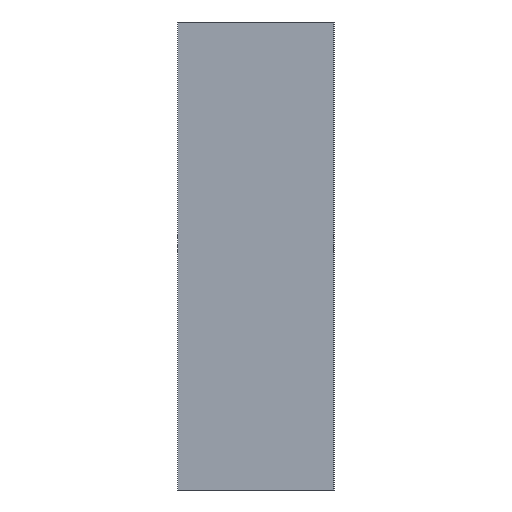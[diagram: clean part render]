
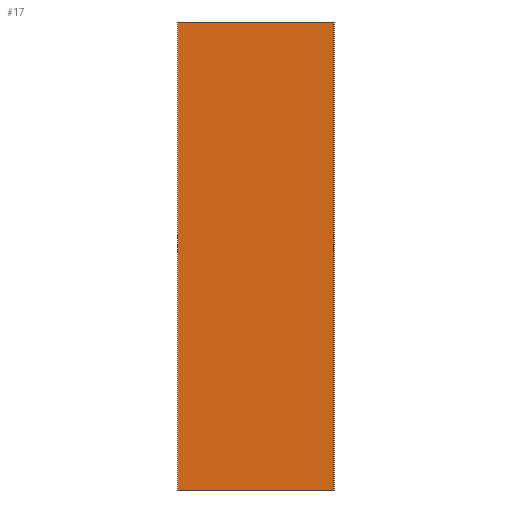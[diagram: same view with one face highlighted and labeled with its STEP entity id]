
A CAD part, left-side view. The second image highlights one B-rep face of the part: STEP entity #17.
In plain terms, the highlighted planar face has unit normal (-1, 0, 0).
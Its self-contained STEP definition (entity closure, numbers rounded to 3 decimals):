
#17 = ADVANCED_FACE('',(#18),#32,.F.);
#18 = FACE_BOUND('',#19,.F.);
#19 = EDGE_LOOP('',(#20,#55,#83,#111));
#20 = ORIENTED_EDGE('',*,*,#21,.F.);
#21 = EDGE_CURVE('',#22,#24,#26,.T.);
#22 = VERTEX_POINT('',#23);
#23 = CARTESIAN_POINT('',(-180.,-140.213,14.));
#24 = VERTEX_POINT('',#25);
#25 = CARTESIAN_POINT('',(-180.,-140.213,23.));
#26 = SURFACE_CURVE('',#27,(#31,#43),.PCURVE_S1.);
#27 = LINE('',#28,#29);
#28 = CARTESIAN_POINT('',(-180.,-140.213,14.));
#29 = VECTOR('',#30,1.);
#30 = DIRECTION('',(0.,0.,1.));
#31 = PCURVE('',#32,#37);
#32 = PLANE('',#33);
#33 = AXIS2_PLACEMENT_3D('',#34,#35,#36);
#34 = CARTESIAN_POINT('',(-180.,-140.213,14.));
#35 = DIRECTION('',(1.,0.,-0.));
#36 = DIRECTION('',(0.,0.,1.));
#37 = DEFINITIONAL_REPRESENTATION('',(#38),#42);
#38 = LINE('',#39,#40);
#39 = CARTESIAN_POINT('',(0.,0.));
#40 = VECTOR('',#41,1.);
#41 = DIRECTION('',(1.,0.));
#42 = ( GEOMETRIC_REPRESENTATION_CONTEXT(2) 
PARAMETRIC_REPRESENTATION_CONTEXT() REPRESENTATION_CONTEXT('2D SPACE',''
  ) );
#43 = PCURVE('',#44,#49);
#44 = PLANE('',#45);
#45 = AXIS2_PLACEMENT_3D('',#46,#47,#48);
#46 = CARTESIAN_POINT('',(-180.,-140.213,14.));
#47 = DIRECTION('',(-0.,1.,0.));
#48 = DIRECTION('',(0.,0.,1.));
#49 = DEFINITIONAL_REPRESENTATION('',(#50),#54);
#50 = LINE('',#51,#52);
#51 = CARTESIAN_POINT('',(0.,0.));
#52 = VECTOR('',#53,1.);
#53 = DIRECTION('',(1.,0.));
#54 = ( GEOMETRIC_REPRESENTATION_CONTEXT(2) 
PARAMETRIC_REPRESENTATION_CONTEXT() REPRESENTATION_CONTEXT('2D SPACE',''
  ) );
#55 = ORIENTED_EDGE('',*,*,#56,.T.);
#56 = EDGE_CURVE('',#22,#57,#59,.T.);
#57 = VERTEX_POINT('',#58);
#58 = CARTESIAN_POINT('',(-180.,-137.213,14.));
#59 = SURFACE_CURVE('',#60,(#64,#71),.PCURVE_S1.);
#60 = LINE('',#61,#62);
#61 = CARTESIAN_POINT('',(-180.,-140.213,14.));
#62 = VECTOR('',#63,1.);
#63 = DIRECTION('',(-0.,1.,0.));
#64 = PCURVE('',#32,#65);
#65 = DEFINITIONAL_REPRESENTATION('',(#66),#70);
#66 = LINE('',#67,#68);
#67 = CARTESIAN_POINT('',(0.,0.));
#68 = VECTOR('',#69,1.);
#69 = DIRECTION('',(0.,-1.));
#70 = ( GEOMETRIC_REPRESENTATION_CONTEXT(2) 
PARAMETRIC_REPRESENTATION_CONTEXT() REPRESENTATION_CONTEXT('2D SPACE',''
  ) );
#71 = PCURVE('',#72,#77);
#72 = PLANE('',#73);
#73 = AXIS2_PLACEMENT_3D('',#74,#75,#76);
#74 = CARTESIAN_POINT('',(-180.,-140.213,14.));
#75 = DIRECTION('',(0.,0.,1.));
#76 = DIRECTION('',(1.,0.,-0.));
#77 = DEFINITIONAL_REPRESENTATION('',(#78),#82);
#78 = LINE('',#79,#80);
#79 = CARTESIAN_POINT('',(0.,0.));
#80 = VECTOR('',#81,1.);
#81 = DIRECTION('',(0.,1.));
#82 = ( GEOMETRIC_REPRESENTATION_CONTEXT(2) 
PARAMETRIC_REPRESENTATION_CONTEXT() REPRESENTATION_CONTEXT('2D SPACE',''
  ) );
#83 = ORIENTED_EDGE('',*,*,#84,.T.);
#84 = EDGE_CURVE('',#57,#85,#87,.T.);
#85 = VERTEX_POINT('',#86);
#86 = CARTESIAN_POINT('',(-180.,-137.213,23.));
#87 = SURFACE_CURVE('',#88,(#92,#99),.PCURVE_S1.);
#88 = LINE('',#89,#90);
#89 = CARTESIAN_POINT('',(-180.,-137.213,14.));
#90 = VECTOR('',#91,1.);
#91 = DIRECTION('',(0.,0.,1.));
#92 = PCURVE('',#32,#93);
#93 = DEFINITIONAL_REPRESENTATION('',(#94),#98);
#94 = LINE('',#95,#96);
#95 = CARTESIAN_POINT('',(0.,-3.));
#96 = VECTOR('',#97,1.);
#97 = DIRECTION('',(1.,0.));
#98 = ( GEOMETRIC_REPRESENTATION_CONTEXT(2) 
PARAMETRIC_REPRESENTATION_CONTEXT() REPRESENTATION_CONTEXT('2D SPACE',''
  ) );
#99 = PCURVE('',#100,#105);
#100 = PLANE('',#101);
#101 = AXIS2_PLACEMENT_3D('',#102,#103,#104);
#102 = CARTESIAN_POINT('',(-180.,-137.213,14.));
#103 = DIRECTION('',(-0.,1.,0.));
#104 = DIRECTION('',(0.,0.,1.));
#105 = DEFINITIONAL_REPRESENTATION('',(#106),#110);
#106 = LINE('',#107,#108);
#107 = CARTESIAN_POINT('',(0.,0.));
#108 = VECTOR('',#109,1.);
#109 = DIRECTION('',(1.,0.));
#110 = ( GEOMETRIC_REPRESENTATION_CONTEXT(2) 
PARAMETRIC_REPRESENTATION_CONTEXT() REPRESENTATION_CONTEXT('2D SPACE',''
  ) );
#111 = ORIENTED_EDGE('',*,*,#112,.F.);
#112 = EDGE_CURVE('',#24,#85,#113,.T.);
#113 = SURFACE_CURVE('',#114,(#118,#125),.PCURVE_S1.);
#114 = LINE('',#115,#116);
#115 = CARTESIAN_POINT('',(-180.,-140.213,23.));
#116 = VECTOR('',#117,1.);
#117 = DIRECTION('',(-0.,1.,0.));
#118 = PCURVE('',#32,#119);
#119 = DEFINITIONAL_REPRESENTATION('',(#120),#124);
#120 = LINE('',#121,#122);
#121 = CARTESIAN_POINT('',(9.,0.));
#122 = VECTOR('',#123,1.);
#123 = DIRECTION('',(0.,-1.));
#124 = ( GEOMETRIC_REPRESENTATION_CONTEXT(2) 
PARAMETRIC_REPRESENTATION_CONTEXT() REPRESENTATION_CONTEXT('2D SPACE',''
  ) );
#125 = PCURVE('',#126,#131);
#126 = PLANE('',#127);
#127 = AXIS2_PLACEMENT_3D('',#128,#129,#130);
#128 = CARTESIAN_POINT('',(-180.,-140.213,23.));
#129 = DIRECTION('',(0.,0.,1.));
#130 = DIRECTION('',(1.,0.,-0.));
#131 = DEFINITIONAL_REPRESENTATION('',(#132),#136);
#132 = LINE('',#133,#134);
#133 = CARTESIAN_POINT('',(0.,0.));
#134 = VECTOR('',#135,1.);
#135 = DIRECTION('',(0.,1.));
#136 = ( GEOMETRIC_REPRESENTATION_CONTEXT(2) 
PARAMETRIC_REPRESENTATION_CONTEXT() REPRESENTATION_CONTEXT('2D SPACE',''
  ) );
